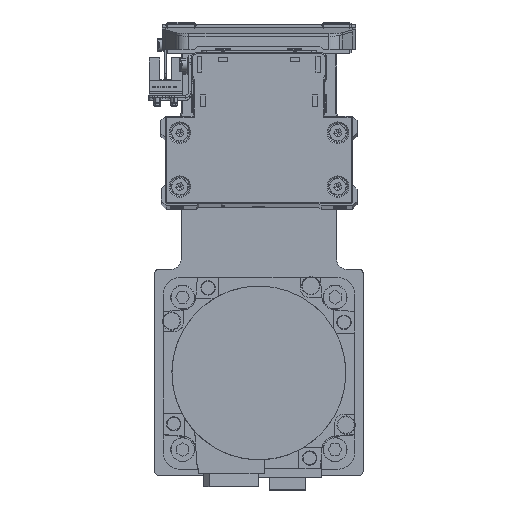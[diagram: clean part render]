
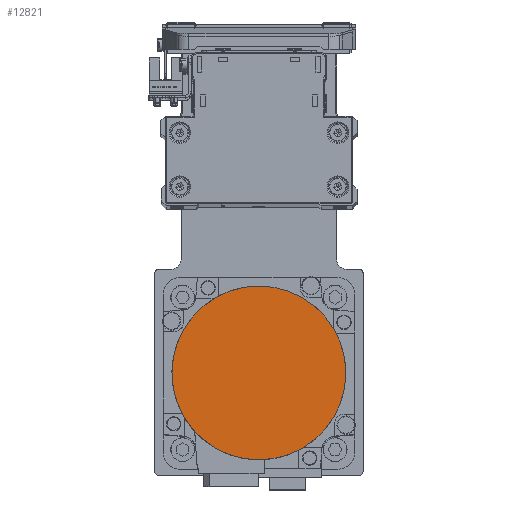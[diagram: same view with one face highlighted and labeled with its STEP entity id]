
A CAD part, top view. The second image highlights one B-rep face of the part: STEP entity #12821.
In plain terms, the highlighted planar face has unit normal (0, 0, 1) as drawn and (0, 0, -1) by its records, which use the part's own axes.
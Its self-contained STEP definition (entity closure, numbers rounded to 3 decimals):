
#779 = DIRECTION ( 'NONE',  ( 0., 0., 1. ) ) ;
#3736 = DIRECTION ( 'NONE',  ( 1., 0., 0. ) ) ;
#6738 = PLANE ( 'NONE',  #18638 ) ;
#7154 = VERTEX_POINT ( 'NONE', #23253 ) ;
#8831 = EDGE_LOOP ( 'NONE', ( #11257, #33454 ) ) ;
#9347 = CARTESIAN_POINT ( 'NONE',  ( 0., -36.3, -122.2 ) ) ;
#11257 = ORIENTED_EDGE ( 'NONE', *, *, #19137, .F. ) ;
#11659 = CIRCLE ( 'NONE', #34185, 36.3 ) ;
#12821 = ADVANCED_FACE ( 'NONE', ( #34346 ), #6738, .F. ) ;
#13058 = DIRECTION ( 'NONE',  ( 0., 1., 0. ) ) ;
#14261 = AXIS2_PLACEMENT_3D ( 'NONE', #28391, #779, #13058 ) ;
#14887 = CARTESIAN_POINT ( 'NONE',  ( 0., 0., -122.2 ) ) ;
#18638 = AXIS2_PLACEMENT_3D ( 'NONE', #19035, #31338, #3736 ) ;
#18935 = EDGE_CURVE ( 'NONE', #20024, #7154, #11659, .T. ) ;
#19035 = CARTESIAN_POINT ( 'NONE',  ( 0., 0., -122.2 ) ) ;
#19137 = EDGE_CURVE ( 'NONE', #7154, #20024, #31633, .T. ) ;
#20024 = VERTEX_POINT ( 'NONE', #9347 ) ;
#23253 = CARTESIAN_POINT ( 'NONE',  ( 0., 36.3, -122.2 ) ) ;
#27180 = DIRECTION ( 'NONE',  ( 0., 0., 1. ) ) ;
#28391 = CARTESIAN_POINT ( 'NONE',  ( 0., 0., -122.2 ) ) ;
#31338 = DIRECTION ( 'NONE',  ( 0., 0., 1. ) ) ;
#31633 = CIRCLE ( 'NONE', #14261, 36.3 ) ;
#33454 = ORIENTED_EDGE ( 'NONE', *, *, #18935, .F. ) ;
#34185 = AXIS2_PLACEMENT_3D ( 'NONE', #14887, #27180, #39455 ) ;
#34346 = FACE_OUTER_BOUND ( 'NONE', #8831, .T. ) ;
#39455 = DIRECTION ( 'NONE',  ( 0., -1., 0. ) ) ;
